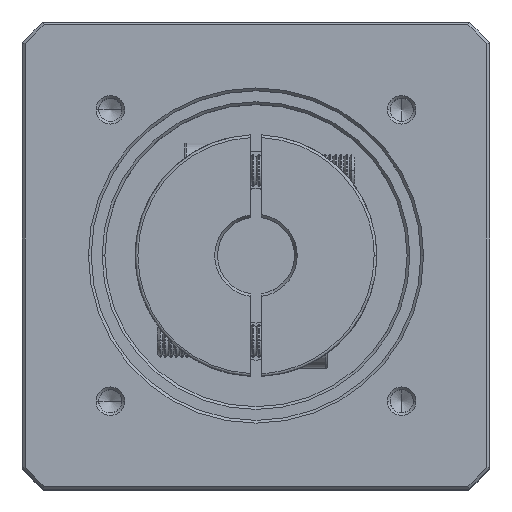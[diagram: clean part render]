
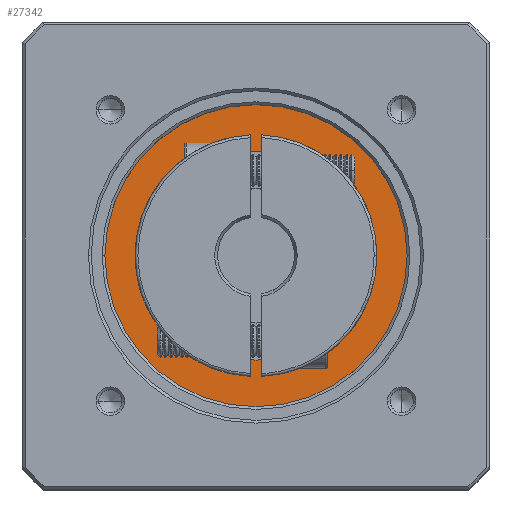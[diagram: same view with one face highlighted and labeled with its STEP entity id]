
A CAD part, top view. The second image highlights one B-rep face of the part: STEP entity #27342.
In plain terms, the highlighted planar face has unit normal (0, 0, 1).
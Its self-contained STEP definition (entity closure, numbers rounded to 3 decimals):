
#906 = VERTEX_POINT ( 'NONE', #21223 ) ;
#1400 = AXIS2_PLACEMENT_3D ( 'NONE', #81701, #29478, #90302 ) ;
#4983 = VERTEX_POINT ( 'NONE', #59865 ) ;
#5191 = ORIENTED_EDGE ( 'NONE', *, *, #101313, .T. ) ;
#7955 = VERTEX_POINT ( 'NONE', #22423 ) ;
#8640 = VERTEX_POINT ( 'NONE', #44428 ) ;
#9928 = CIRCLE ( 'NONE', #77122, 27.5 ) ;
#14517 = DIRECTION ( 'NONE',  ( 0., 0., 1. ) ) ;
#15782 = FACE_OUTER_BOUND ( 'NONE', #26798, .T. ) ;
#21223 = CARTESIAN_POINT ( 'NONE',  ( -66.629, 41.928, 4.643 ) ) ;
#22423 = CARTESIAN_POINT ( 'NONE',  ( -58.129, 41.928, 4.643 ) ) ;
#26798 = EDGE_LOOP ( 'NONE', ( #38183, #57471 ) ) ;
#27342 = ADVANCED_FACE ( 'NONE', ( #15782, #36489 ), #31882, .T. ) ;
#29478 = DIRECTION ( 'NONE',  ( 0., 0., 1. ) ) ;
#31882 = PLANE ( 'NONE',  #85230 ) ;
#31921 = DIRECTION ( 'NONE',  ( 0., 0., -1. ) ) ;
#32818 = EDGE_LOOP ( 'NONE', ( #56141, #5191 ) ) ;
#36489 = FACE_BOUND ( 'NONE', #32818, .T. ) ;
#38183 = ORIENTED_EDGE ( 'NONE', *, *, #66836, .T. ) ;
#40879 = EDGE_CURVE ( 'NONE', #7955, #4983, #9928, .T. ) ;
#42943 = CARTESIAN_POINT ( 'NONE',  ( -85.629, 41.928, 4.643 ) ) ;
#43666 = DIRECTION ( 'NONE',  ( 0., 0., 1. ) ) ;
#44428 = CARTESIAN_POINT ( 'NONE',  ( -104.629, 41.928, 4.643 ) ) ;
#47735 = EDGE_CURVE ( 'NONE', #8640, #906, #60090, .T. ) ;
#51819 = DIRECTION ( 'NONE',  ( -1., 0., 0. ) ) ;
#56141 = ORIENTED_EDGE ( 'NONE', *, *, #47735, .T. ) ;
#57471 = ORIENTED_EDGE ( 'NONE', *, *, #40879, .T. ) ;
#59865 = CARTESIAN_POINT ( 'NONE',  ( -113.129, 41.928, 4.643 ) ) ;
#60090 = CIRCLE ( 'NONE', #92374, 19. ) ;
#61522 = AXIS2_PLACEMENT_3D ( 'NONE', #84102, #31921, #92737 ) ;
#66836 = EDGE_CURVE ( 'NONE', #4983, #7955, #104921, .T. ) ;
#67144 = CARTESIAN_POINT ( 'NONE',  ( -85.629, 41.928, 4.643 ) ) ;
#75783 = DIRECTION ( 'NONE',  ( 1., 0., 0. ) ) ;
#77122 = AXIS2_PLACEMENT_3D ( 'NONE', #95653, #43666, #104299 ) ;
#81701 = CARTESIAN_POINT ( 'NONE',  ( -85.629, 41.928, 4.643 ) ) ;
#84102 = CARTESIAN_POINT ( 'NONE',  ( -85.629, 41.928, 4.643 ) ) ;
#85230 = AXIS2_PLACEMENT_3D ( 'NONE', #67144, #14517, #75783 ) ;
#90302 = DIRECTION ( 'NONE',  ( -1., 0., 0. ) ) ;
#92374 = AXIS2_PLACEMENT_3D ( 'NONE', #42943, #103582, #51819 ) ;
#92737 = DIRECTION ( 'NONE',  ( -1., 0., 0. ) ) ;
#95653 = CARTESIAN_POINT ( 'NONE',  ( -85.629, 41.928, 4.643 ) ) ;
#101313 = EDGE_CURVE ( 'NONE', #906, #8640, #101681, .T. ) ;
#101681 = CIRCLE ( 'NONE', #61522, 19. ) ;
#103582 = DIRECTION ( 'NONE',  ( 0., 0., -1. ) ) ;
#104299 = DIRECTION ( 'NONE',  ( -1., 0., 0. ) ) ;
#104921 = CIRCLE ( 'NONE', #1400, 27.5 ) ;
